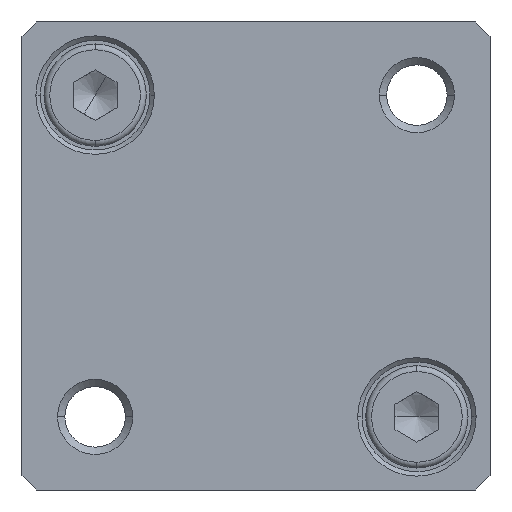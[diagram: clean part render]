
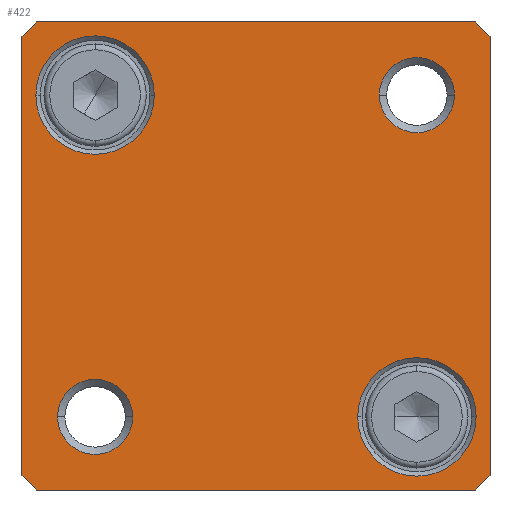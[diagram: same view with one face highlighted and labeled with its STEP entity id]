
A CAD part, front view. The second image highlights one B-rep face of the part: STEP entity #422.
In plain terms, the highlighted planar face has unit normal (0, -1, 0).
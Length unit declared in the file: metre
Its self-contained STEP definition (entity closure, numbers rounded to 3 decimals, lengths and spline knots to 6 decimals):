
#422=ADVANCED_FACE('',(#661,#662,#663,#664,#665),#666,.F.);
#661=FACE_OUTER_BOUND('',#1137,.T.);
#662=FACE_BOUND('',#1138,.T.);
#663=FACE_BOUND('',#1139,.T.);
#664=FACE_BOUND('',#1140,.T.);
#665=FACE_BOUND('',#1141,.T.);
#666=PLANE('',#1142);
#1137=EDGE_LOOP('',(#1786,#1787,#1788,#1789,#1790,#1791,#1792,#1793));
#1138=EDGE_LOOP('',(#1794,#1795));
#1139=EDGE_LOOP('',(#1796,#1797));
#1140=EDGE_LOOP('',(#1798,#1799));
#1141=EDGE_LOOP('',(#1800,#1801));
#1142=AXIS2_PLACEMENT_3D('',#1802,#1803,#1804);
#1786=ORIENTED_EDGE('',*,*,#3371,.F.);
#1787=ORIENTED_EDGE('',*,*,#3372,.F.);
#1788=ORIENTED_EDGE('',*,*,#3373,.F.);
#1789=ORIENTED_EDGE('',*,*,#3374,.F.);
#1790=ORIENTED_EDGE('',*,*,#3375,.F.);
#1791=ORIENTED_EDGE('',*,*,#3376,.F.);
#1792=ORIENTED_EDGE('',*,*,#3377,.F.);
#1793=ORIENTED_EDGE('',*,*,#3378,.F.);
#1794=ORIENTED_EDGE('',*,*,#3379,.F.);
#1795=ORIENTED_EDGE('',*,*,#3302,.F.);
#1796=ORIENTED_EDGE('',*,*,#3380,.F.);
#1797=ORIENTED_EDGE('',*,*,#3263,.F.);
#1798=ORIENTED_EDGE('',*,*,#3381,.F.);
#1799=ORIENTED_EDGE('',*,*,#3267,.F.);
#1800=ORIENTED_EDGE('',*,*,#3382,.F.);
#1801=ORIENTED_EDGE('',*,*,#3310,.F.);
#1802=CARTESIAN_POINT('',(0.,-0.00625,0.));
#1803=DIRECTION('',(-0.0,1.0,0.0));
#1804=DIRECTION('',(1.0,0.0,0.0));
#3263=EDGE_CURVE('',#3941,#3944,#3945,.T.);
#3267=EDGE_CURVE('',#3949,#3952,#3953,.T.);
#3302=EDGE_CURVE('',#4009,#4011,#4012,.T.);
#3310=EDGE_CURVE('',#4023,#4025,#4026,.T.);
#3371=EDGE_CURVE('',#4135,#4136,#4137,.T.);
#3372=EDGE_CURVE('',#4138,#4135,#4139,.T.);
#3373=EDGE_CURVE('',#4140,#4138,#4141,.T.);
#3374=EDGE_CURVE('',#4142,#4140,#4143,.T.);
#3375=EDGE_CURVE('',#4144,#4142,#4145,.T.);
#3376=EDGE_CURVE('',#4146,#4144,#4147,.T.);
#3377=EDGE_CURVE('',#4148,#4146,#4149,.T.);
#3378=EDGE_CURVE('',#4136,#4148,#4150,.T.);
#3379=EDGE_CURVE('',#4011,#4009,#4151,.T.);
#3380=EDGE_CURVE('',#3944,#3941,#4152,.T.);
#3381=EDGE_CURVE('',#3952,#3949,#4153,.T.);
#3382=EDGE_CURVE('',#4025,#4023,#4154,.T.);
#3941=VERTEX_POINT('',#4803);
#3944=VERTEX_POINT('',#4807);
#3945=CIRCLE('',#4808,0.002567);
#3949=VERTEX_POINT('',#4813);
#3952=VERTEX_POINT('',#4817);
#3953=CIRCLE('',#4818,0.002567);
#4009=VERTEX_POINT('',#4937);
#4011=VERTEX_POINT('',#4940);
#4012=CIRCLE('',#4941,0.00405);
#4023=VERTEX_POINT('',#4955);
#4025=VERTEX_POINT('',#4958);
#4026=CIRCLE('',#4959,0.00405);
#4135=VERTEX_POINT('',#5321);
#4136=VERTEX_POINT('',#5322);
#4137=LINE('',#5323,#5324);
#4138=VERTEX_POINT('',#5325);
#4139=LINE('',#5326,#5327);
#4140=VERTEX_POINT('',#5328);
#4141=LINE('',#5329,#5330);
#4142=VERTEX_POINT('',#5331);
#4143=LINE('',#5332,#5333);
#4144=VERTEX_POINT('',#5334);
#4145=LINE('',#5335,#5336);
#4146=VERTEX_POINT('',#5337);
#4147=LINE('',#5338,#5339);
#4148=VERTEX_POINT('',#5340);
#4149=LINE('',#5341,#5342);
#4150=LINE('',#5343,#5344);
#4151=CIRCLE('',#5345,0.00405);
#4152=CIRCLE('',#5346,0.002567);
#4153=CIRCLE('',#5347,0.002567);
#4154=CIRCLE('',#5348,0.00405);
#4803=CARTESIAN_POINT('',(0.008433,-0.00625,0.011));
#4807=CARTESIAN_POINT('',(0.013567,-0.00625,0.011));
#4808=AXIS2_PLACEMENT_3D('',#6821,#6822,#6823);
#4813=CARTESIAN_POINT('',(-0.013567,-0.00625,-0.011));
#4817=CARTESIAN_POINT('',(-0.008433,-0.00625,-0.011));
#4818=AXIS2_PLACEMENT_3D('',#6829,#6830,#6831);
#4937=CARTESIAN_POINT('',(0.00695,-0.00625,-0.011));
#4940=CARTESIAN_POINT('',(0.01505,-0.00625,-0.011));
#4941=AXIS2_PLACEMENT_3D('',#6896,#6897,#6898);
#4955=CARTESIAN_POINT('',(-0.01505,-0.00625,0.011));
#4958=CARTESIAN_POINT('',(-0.00695,-0.00625,0.011));
#4959=AXIS2_PLACEMENT_3D('',#6912,#6913,#6914);
#5321=CARTESIAN_POINT('',(-0.015,-0.00625,0.016));
#5322=CARTESIAN_POINT('',(0.015,-0.00625,0.016));
#5323=CARTESIAN_POINT('',(-0.015,-0.00625,0.016));
#5324=VECTOR('',#7003,0.03);
#5325=CARTESIAN_POINT('',(-0.016,-0.00625,0.015));
#5326=CARTESIAN_POINT('',(-0.016,-0.00625,0.015));
#5327=VECTOR('',#7004,0.001414);
#5328=CARTESIAN_POINT('',(-0.016,-0.00625,-0.015));
#5329=CARTESIAN_POINT('',(-0.016,-0.00625,-0.015));
#5330=VECTOR('',#7005,0.03);
#5331=CARTESIAN_POINT('',(-0.015,-0.00625,-0.016));
#5332=CARTESIAN_POINT('',(-0.015,-0.00625,-0.016));
#5333=VECTOR('',#7006,0.001414);
#5334=CARTESIAN_POINT('',(0.015,-0.00625,-0.016));
#5335=CARTESIAN_POINT('',(0.015,-0.00625,-0.016));
#5336=VECTOR('',#7007,0.03);
#5337=CARTESIAN_POINT('',(0.016,-0.00625,-0.015));
#5338=CARTESIAN_POINT('',(0.016,-0.00625,-0.015));
#5339=VECTOR('',#7008,0.001414);
#5340=CARTESIAN_POINT('',(0.016,-0.00625,0.015));
#5341=CARTESIAN_POINT('',(0.016,-0.00625,0.015));
#5342=VECTOR('',#7009,0.03);
#5343=CARTESIAN_POINT('',(0.015,-0.00625,0.016));
#5344=VECTOR('',#7010,0.001414);
#5345=AXIS2_PLACEMENT_3D('',#7011,#7012,#7013);
#5346=AXIS2_PLACEMENT_3D('',#7014,#7015,#7016);
#5347=AXIS2_PLACEMENT_3D('',#7017,#7018,#7019);
#5348=AXIS2_PLACEMENT_3D('',#7020,#7021,#7022);
#6821=CARTESIAN_POINT('',(0.011,-0.00625,0.011));
#6822=DIRECTION('',(0.0,-1.0,0.0));
#6823=DIRECTION('',(-1.0,0.0,0.0));
#6829=CARTESIAN_POINT('',(-0.011,-0.00625,-0.011));
#6830=DIRECTION('',(0.0,-1.0,0.0));
#6831=DIRECTION('',(-1.0,0.0,0.0));
#6896=CARTESIAN_POINT('',(0.011,-0.00625,-0.011));
#6897=DIRECTION('',(0.0,-1.0,0.0));
#6898=DIRECTION('',(-1.0,0.0,0.0));
#6912=CARTESIAN_POINT('',(-0.011,-0.00625,0.011));
#6913=DIRECTION('',(0.0,-1.0,0.0));
#6914=DIRECTION('',(-1.0,0.0,0.0));
#7003=DIRECTION('',(1.0,0.0,0.0));
#7004=DIRECTION('',(0.707,0.0,0.707));
#7005=DIRECTION('',(0.0,0.0,1.0));
#7006=DIRECTION('',(-0.707,0.0,0.707));
#7007=DIRECTION('',(-1.0,0.0,0.0));
#7008=DIRECTION('',(-0.707,0.0,-0.707));
#7009=DIRECTION('',(0.0,0.0,-1.0));
#7010=DIRECTION('',(0.707,0.0,-0.707));
#7011=CARTESIAN_POINT('',(0.011,-0.00625,-0.011));
#7012=DIRECTION('',(0.0,-1.0,0.0));
#7013=DIRECTION('',(-1.0,0.0,0.0));
#7014=CARTESIAN_POINT('',(0.011,-0.00625,0.011));
#7015=DIRECTION('',(0.0,-1.0,0.0));
#7016=DIRECTION('',(-1.0,0.0,0.0));
#7017=CARTESIAN_POINT('',(-0.011,-0.00625,-0.011));
#7018=DIRECTION('',(0.0,-1.0,0.0));
#7019=DIRECTION('',(-1.0,0.0,0.0));
#7020=CARTESIAN_POINT('',(-0.011,-0.00625,0.011));
#7021=DIRECTION('',(0.0,-1.0,0.0));
#7022=DIRECTION('',(-1.0,0.0,0.0));
